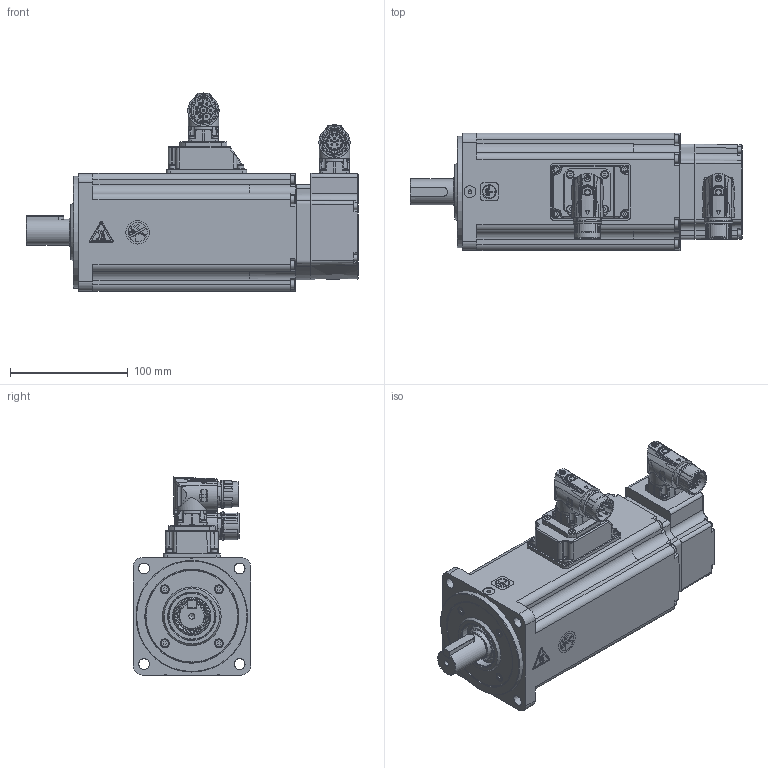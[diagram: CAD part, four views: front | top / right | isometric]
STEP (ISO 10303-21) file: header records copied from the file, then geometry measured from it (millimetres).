
FILE_DESCRIPTION( ( 'Unknown' ), '1' );
FILE_NAME( 'U:/05_Progetto TCE/010-TCE motor drawings/TCE100/vuoti/TCE100 4B XX 3 A1 1 C2.stp', 'Unknown', ( 'Unknown' ), ( 'Unknown' ), 'PSStep 17.0.49', 'Unknown', ' ' );
FILE_SCHEMA( ( 'AUTOMOTIVE_DESIGN { 1 0 10303 214 1 1 1 1 }' ) );
Length unit declared in the file: millimetre
Products named in the file (15): 005911000430
Bounding box: 282.5 x 100.3 x 168.5 mm (x, y, z)
Volume: 860227.9 mm3; surface area: 305735.7 mm2
Topology: 15 solids, 92 shells, 3034 faces, 7575 edges, 4887 vertices
Faces by surface type: plane 1482, cylinder 757, cone 287, bspline 194, torus 165, sphere 111, extrusion 38
Full cylindrical faces by diameter (mm): 0.5 x1, 1 x21, 1.2 x17, 1.4 x4, 1.7 x2, 2 x4, 2.013 x4, 2.2 x2, 2.459 x23, 2.5 x8, 2.6 x4, 2.8 x4, 3 x29, 3.2 x1, 3.242 x42, 3.5 x8, 4 x21, 4.4 x4, 4.5 x18, 4.7 x4, 4.917 x1, 5.5 x12, 5.8 x1, 5.9 x2, 6.8 x1, 7 x16, 7.5 x4, 8 x6, 10 x1, 11 x1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
Entity records: 119941 total; most frequent: CARTESIAN_POINT 30494, DIRECTION 13614, ORIENTED_EDGE 13084, EDGE_CURVE 6542, AXIS2_PLACEMENT_3D 5111, VERTEX_POINT 4628, EDGE_LOOP 4011, FACE_OUTER_BOUND 3497
